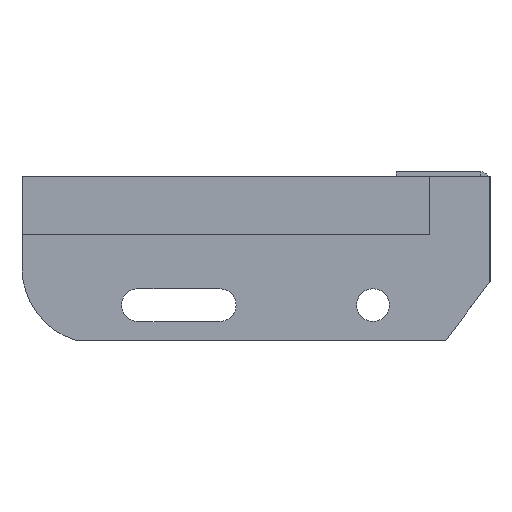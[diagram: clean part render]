
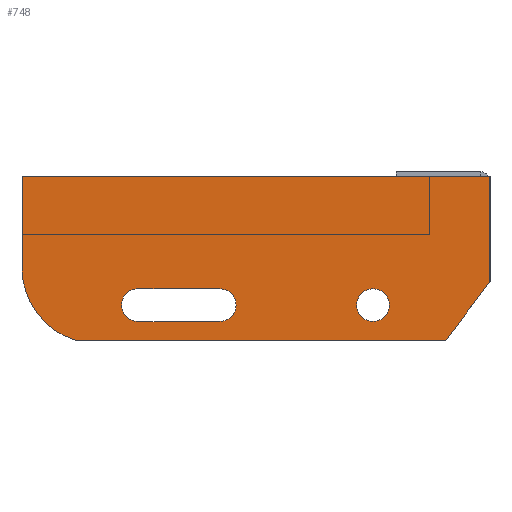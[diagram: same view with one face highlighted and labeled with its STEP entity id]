
A CAD part, left-side view. The second image highlights one B-rep face of the part: STEP entity #748.
In plain terms, the highlighted planar face has unit normal (-1, 0, 0) as drawn and (0, 0, 1) by its records, which use the part's own axes.
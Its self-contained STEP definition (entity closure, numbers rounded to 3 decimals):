
#8 = VECTOR ( 'NONE', #1059, 1000. ) ;
#10 = AXIS2_PLACEMENT_3D ( 'NONE', #526, #851, #218 ) ;
#34 = DIRECTION ( 'NONE',  ( 0.602, 0.799, 0. ) ) ;
#131 = DIRECTION ( 'NONE',  ( 1., 0., 0. ) ) ;
#159 = VERTEX_POINT ( 'NONE', #350 ) ;
#194 = VERTEX_POINT ( 'NONE', #760 ) ;
#210 = CARTESIAN_POINT ( 'NONE',  ( -50., -55., 3. ) ) ;
#218 = DIRECTION ( 'NONE',  ( 1., 0., 0. ) ) ;
#226 = ORIENTED_EDGE ( 'NONE', *, *, #922, .F. ) ;
#227 = CARTESIAN_POINT ( 'NONE',  ( 0., 0., 3. ) ) ;
#251 = DIRECTION ( 'NONE',  ( 1., 0., 0. ) ) ;
#260 = ORIENTED_EDGE ( 'NONE', *, *, #2018, .T. ) ;
#267 = AXIS2_PLACEMENT_3D ( 'NONE', #899, #1017, #1211 ) ;
#275 = CARTESIAN_POINT ( 'NONE',  ( -18.839, -70., 3. ) ) ;
#276 = CARTESIAN_POINT ( 'NONE',  ( -200., 0., 3. ) ) ;
#280 = VERTEX_POINT ( 'NONE', #275 ) ;
#309 = AXIS2_PLACEMENT_3D ( 'NONE', #914, #600, #131 ) ;
#311 = DIRECTION ( 'NONE',  ( 1., 0., 0. ) ) ;
#339 = EDGE_CURVE ( 'NONE', #1396, #159, #1341, .T. ) ;
#350 = CARTESIAN_POINT ( 'NONE',  ( -177.26, -70., 3. ) ) ;
#353 = CARTESIAN_POINT ( 'NONE',  ( -200., 0., 3. ) ) ;
#377 = DIRECTION ( 'NONE',  ( 0., 0., 1. ) ) ;
#394 = DIRECTION ( 'NONE',  ( -1., 0., 0. ) ) ;
#420 = DIRECTION ( 'NONE',  ( 0., 0., 1. ) ) ;
#432 = DIRECTION ( 'NONE',  ( 1., 0., 0. ) ) ;
#442 = ORIENTED_EDGE ( 'NONE', *, *, #1539, .T. ) ;
#443 = DIRECTION ( 'NONE',  ( 0., 0., 1. ) ) ;
#500 = CARTESIAN_POINT ( 'NONE',  ( -167.5, -39., 3. ) ) ;
#518 = FACE_OUTER_BOUND ( 'NONE', #1086, .T. ) ;
#526 = CARTESIAN_POINT ( 'NONE',  ( -115.5, -55., 3. ) ) ;
#528 = CIRCLE ( 'NONE', #309, 7. ) ;
#548 = CARTESIAN_POINT ( 'NONE',  ( -43., -55., 3. ) ) ;
#578 = CARTESIAN_POINT ( 'NONE',  ( -167.5, -39., 3. ) ) ;
#600 = DIRECTION ( 'NONE',  ( 0., 0., 1. ) ) ;
#615 = VERTEX_POINT ( 'NONE', #1759 ) ;
#625 = VECTOR ( 'NONE', #34, 1000. ) ;
#655 = PLANE ( 'NONE',  #1434 ) ;
#689 = EDGE_CURVE ( 'NONE', #1565, #615, #1290, .T. ) ;
#704 = EDGE_CURVE ( 'NONE', #280, #1077, #1598, .T. ) ;
#708 = EDGE_CURVE ( 'NONE', #1621, #1711, #1019, .T. ) ;
#735 = ORIENTED_EDGE ( 'NONE', *, *, #1124, .T. ) ;
#736 = LINE ( 'NONE', #1656, #8 ) ;
#748 = ADVANCED_FACE ( 'NONE', ( #518, #1439, #1461 ), #655, .T. ) ;
#752 = CARTESIAN_POINT ( 'NONE',  ( -57., -55., 3. ) ) ;
#760 = CARTESIAN_POINT ( 'NONE',  ( -115.5, -62., 3. ) ) ;
#772 = EDGE_CURVE ( 'NONE', #159, #280, #736, .T. ) ;
#787 = CARTESIAN_POINT ( 'NONE',  ( 0., -45., 3. ) ) ;
#795 = AXIS2_PLACEMENT_3D ( 'NONE', #210, #1007, #836 ) ;
#796 = EDGE_CURVE ( 'NONE', #1671, #947, #1140, .T. ) ;
#803 = VECTOR ( 'NONE', #394, 1000. ) ;
#836 = DIRECTION ( 'NONE',  ( 1., 0., 0. ) ) ;
#851 = DIRECTION ( 'NONE',  ( 0., 0., 1. ) ) ;
#875 = ORIENTED_EDGE ( 'NONE', *, *, #1054, .F. ) ;
#876 = CARTESIAN_POINT ( 'NONE',  ( -200., -39., 3. ) ) ;
#899 = CARTESIAN_POINT ( 'NONE',  ( -150.5, -55., 3. ) ) ;
#906 = ORIENTED_EDGE ( 'NONE', *, *, #708, .F. ) ;
#910 = ORIENTED_EDGE ( 'NONE', *, *, #689, .F. ) ;
#914 = CARTESIAN_POINT ( 'NONE',  ( -150.5, -55., 3. ) ) ;
#916 = ORIENTED_EDGE ( 'NONE', *, *, #704, .T. ) ;
#922 = EDGE_CURVE ( 'NONE', #947, #194, #1184, .T. ) ;
#947 = VERTEX_POINT ( 'NONE', #1221 ) ;
#964 = ORIENTED_EDGE ( 'NONE', *, *, #796, .F. ) ;
#966 = DIRECTION ( 'NONE',  ( 0., 1., 0. ) ) ;
#1000 = AXIS2_PLACEMENT_3D ( 'NONE', #1098, #443, #311 ) ;
#1007 = DIRECTION ( 'NONE',  ( 0., 0., 1. ) ) ;
#1016 = EDGE_LOOP ( 'NONE', ( #226, #964, #1472, #910, #1493 ) ) ;
#1017 = DIRECTION ( 'NONE',  ( 0., 0., 1. ) ) ;
#1019 = CIRCLE ( 'NONE', #795, 7. ) ;
#1054 = EDGE_CURVE ( 'NONE', #1711, #1621, #1950, .T. ) ;
#1059 = DIRECTION ( 'NONE',  ( 1., 0., 0. ) ) ;
#1077 = VERTEX_POINT ( 'NONE', #787 ) ;
#1086 = EDGE_LOOP ( 'NONE', ( #735, #442, #260, #1664, #1321, #916 ) ) ;
#1098 = CARTESIAN_POINT ( 'NONE',  ( -50., -55., 3. ) ) ;
#1124 = EDGE_CURVE ( 'NONE', #1077, #1230, #1456, .T. ) ;
#1140 = CIRCLE ( 'NONE', #267, 7. ) ;
#1146 = DIRECTION ( 'NONE',  ( 1., 0., 0. ) ) ;
#1159 = VERTEX_POINT ( 'NONE', #353 ) ;
#1166 = VECTOR ( 'NONE', #966, 1000. ) ;
#1184 = LINE ( 'NONE', #1803, #1471 ) ;
#1199 = LINE ( 'NONE', #276, #1517 ) ;
#1211 = DIRECTION ( 'NONE',  ( 1., 0., 0. ) ) ;
#1221 = CARTESIAN_POINT ( 'NONE',  ( -150.5, -62., 3. ) ) ;
#1230 = VERTEX_POINT ( 'NONE', #227 ) ;
#1231 = EDGE_CURVE ( 'NONE', #194, #1565, #1438, .T. ) ;
#1245 = VECTOR ( 'NONE', #1782, 1000. ) ;
#1255 = CARTESIAN_POINT ( 'NONE',  ( -115.5, -48., 3. ) ) ;
#1290 = LINE ( 'NONE', #1609, #1245 ) ;
#1316 = LINE ( 'NONE', #1798, #803 ) ;
#1321 = ORIENTED_EDGE ( 'NONE', *, *, #772, .T. ) ;
#1341 = CIRCLE ( 'NONE', #1432, 32.5 ) ;
#1396 = VERTEX_POINT ( 'NONE', #876 ) ;
#1423 = EDGE_LOOP ( 'NONE', ( #906, #875 ) ) ;
#1432 = AXIS2_PLACEMENT_3D ( 'NONE', #578, #420, #432 ) ;
#1434 = AXIS2_PLACEMENT_3D ( 'NONE', #500, #377, #1146 ) ;
#1438 = CIRCLE ( 'NONE', #10, 7. ) ;
#1439 = FACE_BOUND ( 'NONE', #1423, .T. ) ;
#1456 = LINE ( 'NONE', #1910, #1166 ) ;
#1461 = FACE_BOUND ( 'NONE', #1016, .T. ) ;
#1471 = VECTOR ( 'NONE', #251, 1000. ) ;
#1472 = ORIENTED_EDGE ( 'NONE', *, *, #1966, .F. ) ;
#1493 = ORIENTED_EDGE ( 'NONE', *, *, #1231, .F. ) ;
#1517 = VECTOR ( 'NONE', #1660, 1000. ) ;
#1539 = EDGE_CURVE ( 'NONE', #1230, #1159, #1316, .T. ) ;
#1564 = CARTESIAN_POINT ( 'NONE',  ( -157.5, -55., 3. ) ) ;
#1565 = VERTEX_POINT ( 'NONE', #1255 ) ;
#1598 = LINE ( 'NONE', #1753, #625 ) ;
#1609 = CARTESIAN_POINT ( 'NONE',  ( -150.5, -48., 3. ) ) ;
#1621 = VERTEX_POINT ( 'NONE', #752 ) ;
#1656 = CARTESIAN_POINT ( 'NONE',  ( -18.839, -70., 3. ) ) ;
#1660 = DIRECTION ( 'NONE',  ( 0., -1., 0. ) ) ;
#1664 = ORIENTED_EDGE ( 'NONE', *, *, #339, .T. ) ;
#1671 = VERTEX_POINT ( 'NONE', #1564 ) ;
#1711 = VERTEX_POINT ( 'NONE', #548 ) ;
#1753 = CARTESIAN_POINT ( 'NONE',  ( 0., -45., 3. ) ) ;
#1759 = CARTESIAN_POINT ( 'NONE',  ( -150.5, -48., 3. ) ) ;
#1782 = DIRECTION ( 'NONE',  ( -1., 0., 0. ) ) ;
#1798 = CARTESIAN_POINT ( 'NONE',  ( 0., 0., 3. ) ) ;
#1803 = CARTESIAN_POINT ( 'NONE',  ( -150.5, -62., 3. ) ) ;
#1910 = CARTESIAN_POINT ( 'NONE',  ( 0., 0., 3. ) ) ;
#1950 = CIRCLE ( 'NONE', #1000, 7. ) ;
#1966 = EDGE_CURVE ( 'NONE', #615, #1671, #528, .T. ) ;
#2018 = EDGE_CURVE ( 'NONE', #1159, #1396, #1199, .T. ) ;
